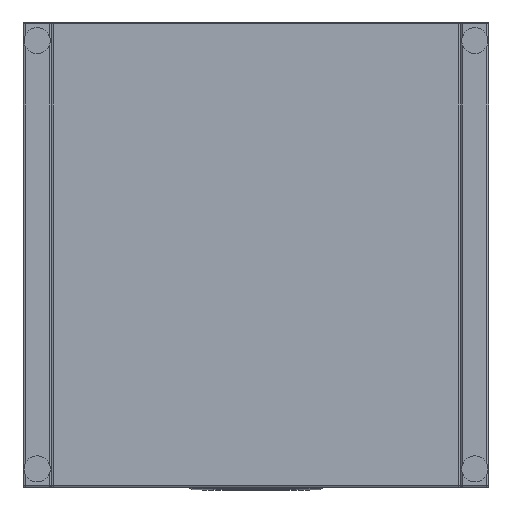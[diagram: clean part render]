
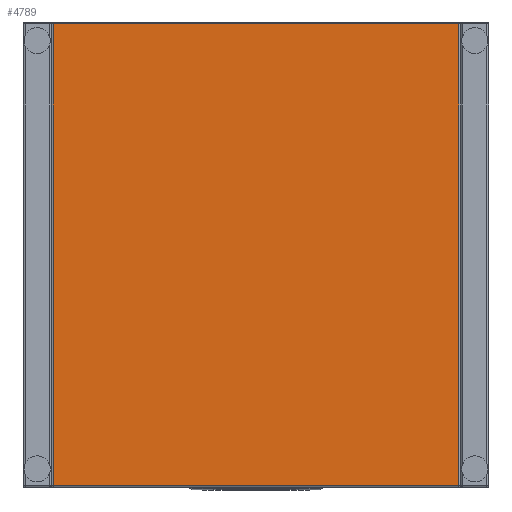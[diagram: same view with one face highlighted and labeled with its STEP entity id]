
A CAD part, front view. The second image highlights one B-rep face of the part: STEP entity #4789.
In plain terms, the highlighted planar face has unit normal (0, -1, 0).
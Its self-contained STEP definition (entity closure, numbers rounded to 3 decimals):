
#183=PLANE('',#5335);
#271=LINE('',#7904,#623);
#275=LINE('',#7910,#627);
#279=LINE('',#7916,#631);
#285=LINE('',#7925,#637);
#623=VECTOR('',#6093,10.);
#627=VECTOR('',#6101,10.);
#631=VECTOR('',#6109,10.);
#637=VECTOR('',#6121,10.);
#1144=FACE_OUTER_BOUND('',#1489,.T.);
#1489=EDGE_LOOP('',(#3368,#3369,#3370,#3371));
#2190=VERTEX_POINT('',#7862);
#2198=VERTEX_POINT('',#7879);
#2202=VERTEX_POINT('',#7890);
#2205=VERTEX_POINT('',#7897);
#2600=EDGE_CURVE('',#2205,#2198,#271,.T.);
#2604=EDGE_CURVE('',#2202,#2205,#275,.T.);
#2608=EDGE_CURVE('',#2190,#2202,#279,.T.);
#2614=EDGE_CURVE('',#2198,#2190,#285,.T.);
#3368=ORIENTED_EDGE('',*,*,#2600,.F.);
#3369=ORIENTED_EDGE('',*,*,#2604,.F.);
#3370=ORIENTED_EDGE('',*,*,#2608,.F.);
#3371=ORIENTED_EDGE('',*,*,#2614,.F.);
#4789=ADVANCED_FACE('',(#1144),#183,.T.);
#5335=AXIS2_PLACEMENT_3D('',#7940,#6141,#6142);
#6093=DIRECTION('',(1.,0.,0.));
#6101=DIRECTION('',(0.,0.,1.));
#6109=DIRECTION('',(-1.,0.,0.));
#6121=DIRECTION('',(0.,0.,-1.));
#6141=DIRECTION('center_axis',(0.,-1.,0.));
#6142=DIRECTION('ref_axis',(0.,0.,-1.));
#7862=CARTESIAN_POINT('',(218.,0.,-248.));
#7879=CARTESIAN_POINT('',(218.,0.,248.));
#7890=CARTESIAN_POINT('',(-218.,0.,-248.));
#7897=CARTESIAN_POINT('',(-218.,0.,248.));
#7904=CARTESIAN_POINT('',(-110.,0.,248.));
#7910=CARTESIAN_POINT('',(-218.,0.,-125.));
#7916=CARTESIAN_POINT('',(110.,0.,-248.));
#7925=CARTESIAN_POINT('',(218.,0.,125.));
#7940=CARTESIAN_POINT('Origin',(0.,0.,0.));
